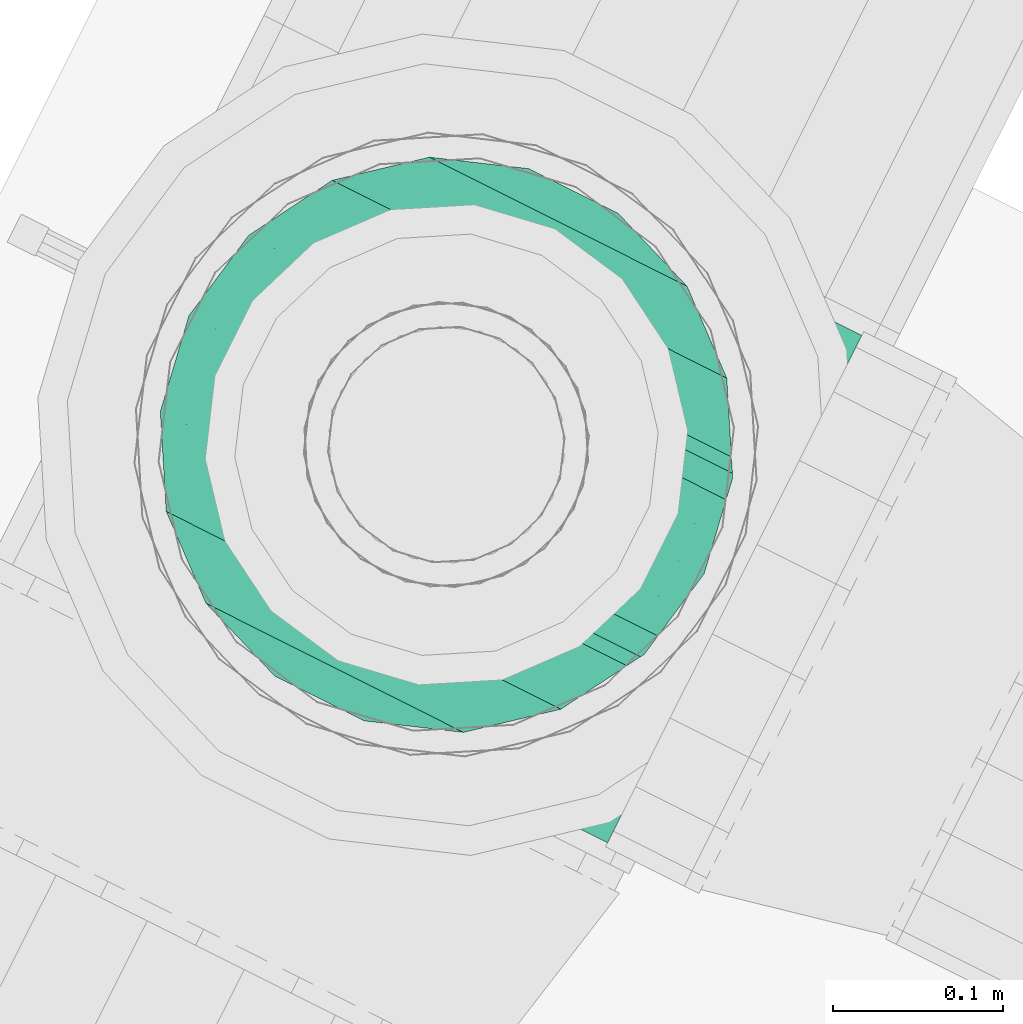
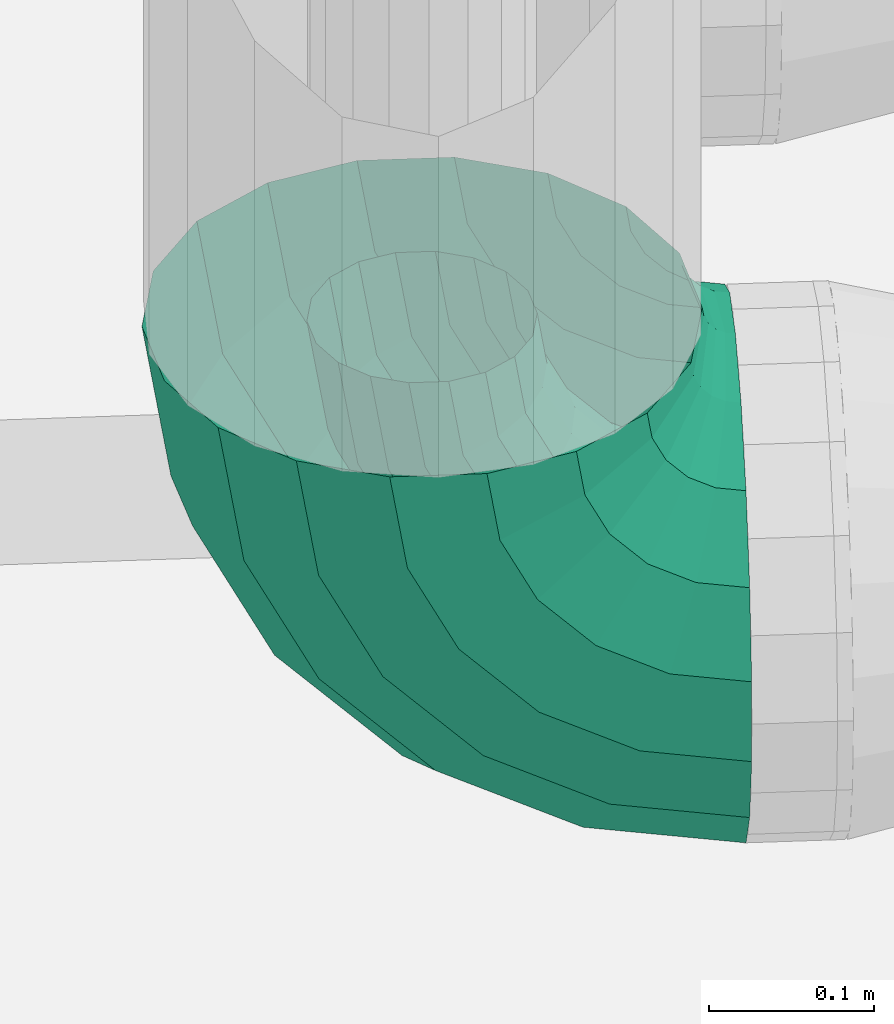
# One storey, part 103 of 152: 1 flow segment.
"""IFC2X3 building model written with IfcOpenShell, lengths in metres."""

from ifc_helpers import new_model, si_unit, derived_unit, direction, frame, origin, place, context, subcontext, project, spatial, face_set, surface_model, source, transform, mapped, material, type_object, type_shapes, element, save


model = new_model("IFC2X3")

# Units and contexts
model_context = context("Model", 3, precision=5.2338327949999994e-05, world=origin(), true_north=direction((0.0, 1.0)))
body_context = subcontext(model_context, "Body", "Model", "MODEL_VIEW")
ifc_project = project(units=[si_unit("LENGTHUNIT", "METRE"), si_unit("AREAUNIT", "SQUARE_METRE"), si_unit("VOLUMEUNIT", "CUBIC_METRE"), si_unit("MASSUNIT", "GRAM", prefix="KILO"), si_unit("PLANEANGLEUNIT", "RADIAN"), derived_unit("THERMALTRANSMITTANCEUNIT", [(si_unit("MASSUNIT", "GRAM", prefix="KILO"), 1), (si_unit("THERMODYNAMICTEMPERATUREUNIT", "KELVIN"), -1), (si_unit("TIMEUNIT", "SECOND"), -3)])], contexts=[model_context])

# Site, building, storey
site_placement = place(None, frame((0.0, 0.0, 0.0), z_axis=(0.0, 0.0, 1.0), x_axis=(0.8939966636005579, -0.4480736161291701, 0.0)))
site = spatial("IfcSite", under=ifc_project, at=site_placement, Name="Default", CompositionType="ELEMENT")
building_placement = place(site_placement, origin())
building = spatial("IfcBuilding", under=site, at=building_placement, CompositionType="ELEMENT")
storey_placement = place(building_placement, frame((0.0, 0.0, 2.7499999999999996)))
storey = spatial("IfcBuildingStorey", under=building, at=storey_placement, Name="1. Obergeschoss", CompositionType="ELEMENT", Elevation=2.7499999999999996)

# Flow segment
ifc_material = material(Name="IfcSurfaceStyle #9317")
distribution_element_type = type_object("IfcDistributionElementType", Name="Rohrbogen 236771:Rohrbogen 236771", material=ifc_material)
shared_shape = source(origin(), body_context, "Body", "SurfaceModel", [
    surface_model("IfcFaceBasedSurfaceModel", [(9.8157708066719, 6.5917480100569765, 3.2553047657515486), (9.8157708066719, 6.567857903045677, 3.259517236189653), (9.736774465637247, 6.567857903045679, 3.2720290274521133), (9.735472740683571, 6.5917480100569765, 3.2680227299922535), (9.665510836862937, 6.56785790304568, 3.3083396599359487), (9.663034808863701, 6.5917480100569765, 3.304931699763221), (9.608955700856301, 6.567857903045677, 3.3648947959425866), (9.60554774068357, 6.591748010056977, 3.36241876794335), (9.572645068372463, 6.5678579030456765, 3.436158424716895), (9.568638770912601, 6.591748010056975, 3.4348566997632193), (9.560133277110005, 6.5678579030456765, 3.5151547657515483), (9.555920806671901, 6.591748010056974, 3.5151547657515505), (9.8157708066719, 6.54684929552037, 3.271646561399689), (9.74052263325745, 6.54684929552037, 3.2835647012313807), (9.672640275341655, 6.546849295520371, 3.3181524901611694), (9.618768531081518, 6.546849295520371, 3.3720242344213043), (9.58418074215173, 6.546849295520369, 3.439906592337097), (9.572262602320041, 6.546849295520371, 3.5151547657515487), (9.8157708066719, 6.531256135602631, 3.2902297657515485), (9.746265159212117, 6.531256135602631, 3.3012383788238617), (9.683563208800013, 6.531256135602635, 3.3331866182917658), (9.633802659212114, 6.531256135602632, 3.3829471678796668), (9.601854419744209, 6.531256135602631, 3.445649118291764), (9.590845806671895, 6.531256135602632, 3.5151547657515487), (9.8157708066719, 6.5229591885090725, 3.313025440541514), (9.753309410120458, 6.522959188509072, 3.322918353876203), (9.696962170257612, 6.522959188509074, 3.3516287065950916), (9.652244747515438, 6.5229591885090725, 3.3963461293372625), (9.623534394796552, 6.522959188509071, 3.4526933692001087), (9.613641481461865, 6.522959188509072, 3.51515476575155), (9.8157708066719, 6.5229591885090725, 3.3372840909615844), (9.76080574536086, 6.5229591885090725, 3.3459897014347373), (9.711221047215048, 6.522959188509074, 3.3712543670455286), (9.671870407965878, 6.5229591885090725, 3.4106050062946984), (9.646605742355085, 6.5229591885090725, 3.460189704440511), (9.637900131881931, 6.522959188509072, 3.5151547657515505), (9.8157708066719, 6.531256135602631, 3.3600797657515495), (9.767849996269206, 6.531256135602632, 3.367669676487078), (9.724620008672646, 6.531256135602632, 3.3896964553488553), (9.690312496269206, 6.531256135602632, 3.424003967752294), (9.668285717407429, 6.5312561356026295, 3.4672339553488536), (9.6606958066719, 6.53125613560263, 3.5151547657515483), (9.815770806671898, 6.54684929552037, 3.3786629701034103), (9.773592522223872, 6.54684929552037, 3.3853433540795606), (9.735542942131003, 6.546849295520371, 3.404730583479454), (9.705346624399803, 6.5468492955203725, 3.4349269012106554), (9.685959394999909, 6.546849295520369, 3.4729764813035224), (9.679279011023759, 6.546849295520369, 3.51515476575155), (9.8157708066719, 6.567857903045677, 3.3907922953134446), (9.777340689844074, 6.567857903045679, 3.3968790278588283), (9.742672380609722, 6.567857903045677, 3.4145434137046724), (9.715159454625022, 6.567857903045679, 3.442056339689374), (9.697495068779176, 6.5678579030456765, 3.4767246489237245), (9.691408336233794, 6.5678579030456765, 3.5151547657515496), (9.8157708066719, 6.591748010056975, 3.3950047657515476), (9.77864241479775, 6.5917480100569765, 3.400885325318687), (9.745148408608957, 6.591748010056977, 3.4179513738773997), (9.718567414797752, 6.591748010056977, 3.444532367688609), (9.701501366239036, 6.591748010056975, 3.4780263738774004), (9.695620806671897, 6.591748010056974, 3.5151547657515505), (9.8157708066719, 6.615638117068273, 3.390792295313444), (9.777340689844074, 6.615638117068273, 3.3968790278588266), (9.74267238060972, 6.615638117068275, 3.414543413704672), (9.715159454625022, 6.615638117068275, 3.4420563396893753), (9.697495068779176, 6.615638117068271, 3.476724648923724), (9.691408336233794, 6.615638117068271, 3.5151547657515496), (9.815770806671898, 6.63664672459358, 3.378662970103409), (9.773592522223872, 6.63664672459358, 3.38534335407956), (9.735542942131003, 6.636646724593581, 3.404730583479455), (9.705346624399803, 6.636646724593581, 3.4349269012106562), (9.685959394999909, 6.636646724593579, 3.472976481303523), (9.679279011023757, 6.636646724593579, 3.515154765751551), (9.8157708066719, 6.652239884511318, 3.3600797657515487), (9.767849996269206, 6.652239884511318, 3.367669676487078), (9.724620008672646, 6.65223988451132, 3.3896964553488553), (9.690312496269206, 6.652239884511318, 3.424003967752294), (9.668285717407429, 6.652239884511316, 3.4672339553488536), (9.6606958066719, 6.652239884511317, 3.5151547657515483), (9.815770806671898, 6.660536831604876, 3.337284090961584), (9.76080574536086, 6.660536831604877, 3.3459897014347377), (9.711221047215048, 6.660536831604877, 3.3712543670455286), (9.671870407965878, 6.660536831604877, 3.410605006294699), (9.646605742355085, 6.660536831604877, 3.460189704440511), (9.637900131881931, 6.660536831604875, 3.5151547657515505), (9.8157708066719, 6.66053683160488, 3.313025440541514), (9.753309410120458, 6.660536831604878, 3.322918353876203), (9.696962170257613, 6.66053683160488, 3.3516287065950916), (9.652244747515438, 6.660536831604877, 3.3963461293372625), (9.623534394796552, 6.660536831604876, 3.4526933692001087), (9.613641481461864, 6.660536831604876, 3.51515476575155), (9.8157708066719, 6.652239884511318, 3.2902297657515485), (9.746265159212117, 6.652239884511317, 3.301238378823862), (9.683563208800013, 6.65223988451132, 3.333186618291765), (9.633802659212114, 6.65223988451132, 3.3829471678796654), (9.60185441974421, 6.652239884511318, 3.445649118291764), (9.590845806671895, 6.652239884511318, 3.5151547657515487), (9.8157708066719, 6.63664672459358, 3.2716465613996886), (9.74052263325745, 6.63664672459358, 3.2835647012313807), (9.672640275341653, 6.636646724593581, 3.318152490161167), (9.618768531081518, 6.63664672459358, 3.3720242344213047), (9.58418074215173, 6.636646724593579, 3.439906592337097), (9.57226260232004, 6.63664672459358, 3.5151547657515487), (9.8157708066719, 6.615638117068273, 3.2595172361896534), (9.736774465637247, 6.615638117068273, 3.2720290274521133), (9.665510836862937, 6.615638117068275, 3.3083396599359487), (9.608955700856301, 6.615638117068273, 3.3648947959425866), (9.572645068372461, 6.615638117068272, 3.436158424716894), (9.560133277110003, 6.615638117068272, 3.5151547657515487), (9.8157708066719, 6.5917480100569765, 3.155304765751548), (9.8157708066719, 6.533655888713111, 3.1655479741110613), (9.70773636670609, 6.5336558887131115, 3.1826589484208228), (9.704571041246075, 6.591748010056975, 3.1729170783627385), (9.610277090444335, 6.5336558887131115, 3.2323169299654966), (9.604256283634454, 6.591748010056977, 3.224030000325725), (9.532932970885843, 6.533655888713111, 3.309661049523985), (9.524646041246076, 6.5917480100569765, 3.3036402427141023), (9.483274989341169, 6.533655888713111, 3.4071203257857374), (9.473533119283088, 6.591748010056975, 3.4039550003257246), (9.466164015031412, 6.533655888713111, 3.51515476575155), (9.455920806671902, 6.5917480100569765, 3.5151547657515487), (9.8157708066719, 6.482570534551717, 3.195042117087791), (9.716850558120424, 6.482570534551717, 3.2107095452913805), (9.627613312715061, 6.482570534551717, 3.2561781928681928), (9.556794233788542, 6.482570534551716, 3.3269972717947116), (9.51132558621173, 6.482570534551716, 3.4162345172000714), (9.495658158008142, 6.482570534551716, 3.5151547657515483), (9.8157708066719, 6.444653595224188, 3.240229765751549), (9.730814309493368, 6.444653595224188, 3.2536855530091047), (9.654173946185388, 6.444653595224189, 3.2927357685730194), (9.593351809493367, 6.444653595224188, 3.353557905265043), (9.554301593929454, 6.444653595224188, 3.4301982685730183), (9.540845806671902, 6.444653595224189, 3.51515476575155), (9.8157708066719, 6.4244784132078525, 3.2956606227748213), (9.747943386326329, 6.424478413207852, 3.306403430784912), (9.686755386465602, 6.424478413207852, 3.3375802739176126), (9.638196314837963, 6.424478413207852, 3.3861393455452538), (9.607019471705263, 6.424478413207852, 3.447327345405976), (9.596276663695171, 6.424478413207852, 3.5151547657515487), (9.8157708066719, 6.424478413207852, 3.354648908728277), (9.766171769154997, 6.424478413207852, 3.3625046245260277), (9.721427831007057, 6.424478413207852, 3.3853027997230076), (9.685918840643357, 6.424478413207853, 3.4208117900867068), (9.663120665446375, 6.424478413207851, 3.4655557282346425), (9.655264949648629, 6.424478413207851, 3.5151547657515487), (9.8157708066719, 6.444653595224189, 3.4100797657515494), (9.783300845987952, 6.444653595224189, 3.4152225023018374), (9.754009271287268, 6.444653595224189, 3.430147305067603), (9.730763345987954, 6.444653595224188, 3.4533932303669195), (9.715838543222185, 6.444653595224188, 3.4826848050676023), (9.7106958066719, 6.444653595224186, 3.5151547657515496), (9.8157708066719, 6.482570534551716, 3.455267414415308), (9.797264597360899, 6.482570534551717, 3.4581985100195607), (9.780569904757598, 6.482570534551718, 3.466704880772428), (9.767320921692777, 6.482570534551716, 3.4799538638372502), (9.758814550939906, 6.482570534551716, 3.4966485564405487), (9.755883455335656, 6.482570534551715, 3.515154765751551), (9.8157708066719, 6.533655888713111, 3.4847615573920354), (9.80637878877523, 6.533655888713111, 3.4862491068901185), (9.79790612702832, 6.53365588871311, 3.4905661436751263), (9.79118218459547, 6.533655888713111, 3.4972900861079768), (9.786865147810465, 6.533655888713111, 3.5057627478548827), (9.785377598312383, 6.533655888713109, 3.5151547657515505), (9.8157708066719, 6.5917480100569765, 3.495004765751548), (9.809544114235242, 6.5917480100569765, 3.495990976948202), (9.803926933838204, 6.591748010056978, 3.498853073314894), (9.799469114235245, 6.5917480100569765, 3.5033108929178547), (9.796607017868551, 6.591748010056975, 3.5089280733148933), (9.7956208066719, 6.591748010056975, 3.5151547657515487), (9.8157708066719, 6.6498401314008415, 3.4847615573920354), (9.80637878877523, 6.6498401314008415, 3.4862491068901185), (9.79790612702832, 6.6498401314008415, 3.4905661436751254), (9.79118218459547, 6.649840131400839, 3.4972900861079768), (9.786865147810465, 6.649840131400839, 3.505762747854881), (9.785377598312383, 6.649840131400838, 3.515154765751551), (9.8157708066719, 6.700925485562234, 3.455267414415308), (9.797264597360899, 6.700925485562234, 3.4581985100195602), (9.780569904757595, 6.7009254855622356, 3.466704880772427), (9.767320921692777, 6.700925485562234, 3.4799538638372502), (9.758814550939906, 6.700925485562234, 3.496648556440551), (9.755883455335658, 6.700925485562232, 3.515154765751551), (9.8157708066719, 6.7388424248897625, 3.410079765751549), (9.783300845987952, 6.7388424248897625, 3.415222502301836), (9.754009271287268, 6.738842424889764, 3.430147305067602), (9.730763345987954, 6.7388424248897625, 3.453393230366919), (9.715838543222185, 6.7388424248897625, 3.482684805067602), (9.710695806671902, 6.738842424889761, 3.5151547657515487), (9.8157708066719, 6.7590176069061, 3.354648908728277), (9.766171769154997, 6.759017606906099, 3.362504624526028), (9.721427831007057, 6.7590176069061, 3.385302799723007), (9.685918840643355, 6.759017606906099, 3.420811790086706), (9.663120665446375, 6.759017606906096, 3.4655557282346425), (9.655264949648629, 6.759017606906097, 3.5151547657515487), (9.8157708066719, 6.759017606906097, 3.295660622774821), (9.747943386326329, 6.759017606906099, 3.306403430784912), (9.686755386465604, 6.7590176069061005, 3.337580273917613), (9.638196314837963, 6.759017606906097, 3.3861393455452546), (9.607019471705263, 6.759017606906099, 3.447327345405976), (9.596276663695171, 6.759017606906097, 3.5151547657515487), (9.8157708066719, 6.738842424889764, 3.2402297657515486), (9.730814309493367, 6.738842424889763, 3.253685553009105), (9.654173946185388, 6.7388424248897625, 3.2927357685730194), (9.593351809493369, 6.738842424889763, 3.353557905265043), (9.554301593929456, 6.738842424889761, 3.4301982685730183), (9.540845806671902, 6.738842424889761, 3.5151547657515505), (9.8157708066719, 6.700925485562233, 3.195042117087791), (9.716850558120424, 6.700925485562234, 3.2107095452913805), (9.627613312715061, 6.7009254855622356, 3.256178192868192), (9.556794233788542, 6.700925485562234, 3.3269972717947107), (9.51132558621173, 6.700925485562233, 3.4162345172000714), (9.495658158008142, 6.700925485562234, 3.5151547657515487), (9.8157708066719, 6.649840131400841, 3.1655479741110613), (9.70773636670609, 6.6498401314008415, 3.182658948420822), (9.610277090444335, 6.649840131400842, 3.232316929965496), (9.532932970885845, 6.649840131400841, 3.3096610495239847), (9.483274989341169, 6.649840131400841, 3.407120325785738), (9.466164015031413, 6.649840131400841, 3.51515476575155)], [face_set([[[0, 1, 2, 3]], [[3, 2, 4, 5]], [[5, 4, 6, 7]], [[7, 6, 8, 9]], [[9, 8, 10, 11]], [[1, 12, 13, 2]], [[2, 13, 14, 4]], [[4, 14, 15, 6]], [[6, 15, 16, 8]], [[8, 16, 17, 10]], [[12, 18, 19, 13]], [[13, 19, 20, 14]], [[14, 20, 21, 15]], [[15, 21, 22, 16]], [[16, 22, 23, 17]], [[18, 24, 25, 19]], [[19, 25, 26, 20]], [[20, 26, 27, 21]], [[21, 27, 28, 22]], [[22, 28, 29, 23]], [[24, 30, 31, 25]], [[25, 31, 32, 26]], [[26, 32, 33, 27]], [[27, 33, 34, 28]], [[28, 34, 35, 29]], [[30, 36, 37, 31]], [[31, 37, 38, 32]], [[32, 38, 39, 33]], [[33, 39, 40, 34]], [[34, 40, 41, 35]], [[36, 42, 43, 37]], [[37, 43, 44, 38]], [[38, 44, 45, 39]], [[39, 45, 46, 40]], [[40, 46, 47, 41]], [[42, 48, 49, 43]], [[43, 49, 50, 44]], [[44, 50, 51, 45]], [[45, 51, 52, 46]], [[46, 52, 53, 47]], [[48, 54, 55, 49]], [[49, 55, 56, 50]], [[50, 56, 57, 51]], [[51, 57, 58, 52]], [[52, 58, 59, 53]], [[54, 60, 61, 55]], [[55, 61, 62, 56]], [[56, 62, 63, 57]], [[57, 63, 64, 58]], [[58, 64, 65, 59]], [[60, 66, 67, 61]], [[61, 67, 68, 62]], [[62, 68, 69, 63]], [[63, 69, 70, 64]], [[64, 70, 71, 65]], [[66, 72, 73, 67]], [[67, 73, 74, 68]], [[68, 74, 75, 69]], [[69, 75, 76, 70]], [[70, 76, 77, 71]], [[72, 78, 79, 73]], [[73, 79, 80, 74]], [[74, 80, 81, 75]], [[75, 81, 82, 76]], [[76, 82, 83, 77]], [[78, 84, 85, 79]], [[79, 85, 86, 80]], [[80, 86, 87, 81]], [[81, 87, 88, 82]], [[82, 88, 89, 83]], [[84, 90, 91, 85]], [[85, 91, 92, 86]], [[86, 92, 93, 87]], [[87, 93, 94, 88]], [[88, 94, 95, 89]], [[90, 96, 97, 91]], [[91, 97, 98, 92]], [[92, 98, 99, 93]], [[93, 99, 100, 94]], [[94, 100, 101, 95]], [[96, 102, 103, 97]], [[97, 103, 104, 98]], [[98, 104, 105, 99]], [[99, 105, 106, 100]], [[100, 106, 107, 101]], [[102, 0, 3, 103]], [[103, 3, 5, 104]], [[104, 5, 7, 105]], [[105, 7, 9, 106]], [[106, 9, 11, 107]], [[108, 109, 110, 111]], [[111, 110, 112, 113]], [[113, 112, 114, 115]], [[115, 114, 116, 117]], [[117, 116, 118, 119]], [[109, 120, 121, 110]], [[110, 121, 122, 112]], [[112, 122, 123, 114]], [[114, 123, 124, 116]], [[116, 124, 125, 118]], [[120, 126, 127, 121]], [[121, 127, 128, 122]], [[122, 128, 129, 123]], [[123, 129, 130, 124]], [[124, 130, 131, 125]], [[126, 132, 133, 127]], [[127, 133, 134, 128]], [[128, 134, 135, 129]], [[129, 135, 136, 130]], [[130, 136, 137, 131]], [[132, 138, 139, 133]], [[133, 139, 140, 134]], [[134, 140, 141, 135]], [[135, 141, 142, 136]], [[136, 142, 143, 137]], [[138, 144, 145, 139]], [[139, 145, 146, 140]], [[140, 146, 147, 141]], [[141, 147, 148, 142]], [[142, 148, 149, 143]], [[144, 150, 151, 145]], [[145, 151, 152, 146]], [[146, 152, 153, 147]], [[147, 153, 154, 148]], [[148, 154, 155, 149]], [[150, 156, 157, 151]], [[151, 157, 158, 152]], [[152, 158, 159, 153]], [[153, 159, 160, 154]], [[154, 160, 161, 155]], [[156, 162, 163, 157]], [[157, 163, 164, 158]], [[158, 164, 165, 159]], [[159, 165, 166, 160]], [[160, 166, 167, 161]], [[162, 168, 169, 163]], [[163, 169, 170, 164]], [[164, 170, 171, 165]], [[165, 171, 172, 166]], [[166, 172, 173, 167]], [[168, 174, 175, 169]], [[169, 175, 176, 170]], [[170, 176, 177, 171]], [[171, 177, 178, 172]], [[172, 178, 179, 173]], [[174, 180, 181, 175]], [[175, 181, 182, 176]], [[176, 182, 183, 177]], [[177, 183, 184, 178]], [[178, 184, 185, 179]], [[180, 186, 187, 181]], [[181, 187, 188, 182]], [[182, 188, 189, 183]], [[183, 189, 190, 184]], [[184, 190, 191, 185]], [[186, 192, 193, 187]], [[187, 193, 194, 188]], [[188, 194, 195, 189]], [[189, 195, 196, 190]], [[190, 196, 197, 191]], [[192, 198, 199, 193]], [[193, 199, 200, 194]], [[194, 200, 201, 195]], [[195, 201, 202, 196]], [[196, 202, 203, 197]], [[198, 204, 205, 199]], [[199, 205, 206, 200]], [[200, 206, 207, 201]], [[201, 207, 208, 202]], [[202, 208, 209, 203]], [[204, 210, 211, 205]], [[205, 211, 212, 206]], [[206, 212, 213, 207]], [[207, 213, 214, 208]], [[208, 214, 215, 209]], [[210, 108, 111, 211]], [[211, 111, 113, 212]], [[212, 113, 115, 213]], [[213, 115, 117, 214]], [[214, 117, 119, 215]]])]),
])
type_shapes(distribution_element_type, [shared_shape])
flow_segment_placement = place(storey_placement, frame((0.0, 0.0, -2.7499999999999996)))
element("IfcFlowSegment", 1, at=flow_segment_placement, inside=storey, type_object=distribution_element_type, material=ifc_material, Name="Rohrbogen", ObjectType="Rohrbogen", context=body_context, shape_type="MappedRepresentation", body=[
    mapped(shared_shape, transform((0.0, 0.0, 0.0), scale=1.0)),
])

save(model, "model.ifc")
